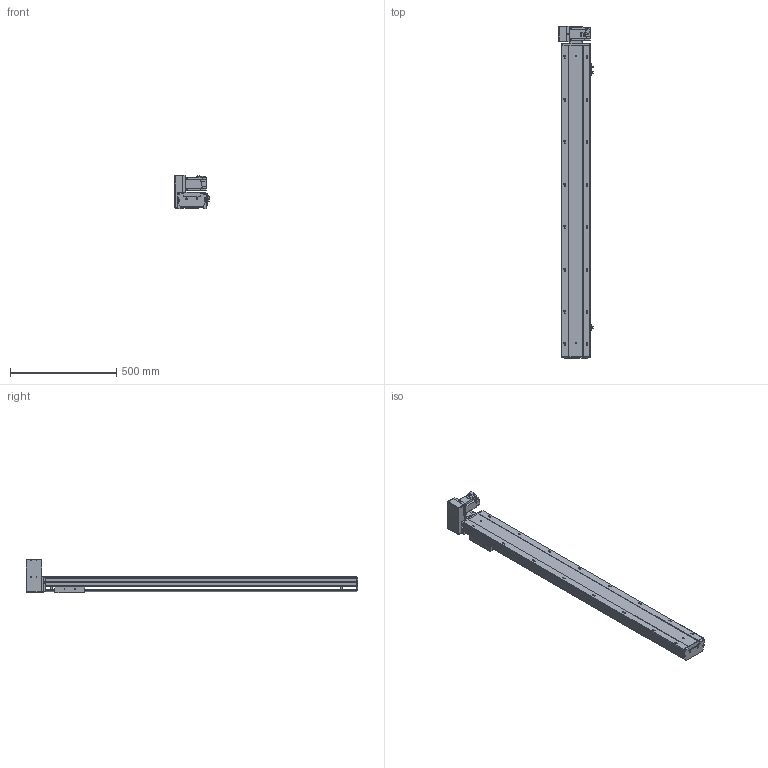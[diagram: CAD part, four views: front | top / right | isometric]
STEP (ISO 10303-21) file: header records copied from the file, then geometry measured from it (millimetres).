
FILE_DESCRIPTION (( 'STEP AP203' ), '1' );
FILE_NAME ('120.STEP', '2022-07-21T08:30:52', ( '' ), ( '' ), 'SwSTEP 2.0', 'SolidWorks 2016', '' );
FILE_SCHEMA (( 'CONFIG_CONTROL_DESIGN' ));
Length unit declared in the file: millimetre
Products named in the file (10): 120; BTB14-L-04; BTB14-L-M40; BTB14-L-菁釱_XD; BTB14-L-HZ; BTB14-L-01; BTB14-L-24; BTB14-L-06; BTB14-L-02; BTB14-L-23
Assembly tree (12 placements, depth 2):
  120
    BTB14-L-菁釱_XD
    BTB14-L-01
    BTB14-L-02
    BTB14-L-04  x3
    BTB14-L-06
    BTB14-L-23  x2
    BTB14-L-24
    BTB14-L-HZ
    BTB14-L-M40
Bounding box: 160.7 x 1562.5 x 157.3 mm (x, y, z)
Volume: 7083351.8 mm3; surface area: 1490412.5 mm2
Topology: 22 solids, 22 shells, 1630 faces, 4309 edges, 2746 vertices
Faces by surface type: plane 937, cylinder 472, cone 132, bspline 77, torus 12
Entity records: 43266 total; most frequent: CARTESIAN_POINT 10657, ORIENTED_EDGE 6524, DIRECTION 6488, EDGE_CURVE 3262, LINE 2218, VECTOR 2218, AXIS2_PLACEMENT_3D 2135, VERTEX_POINT 2124
